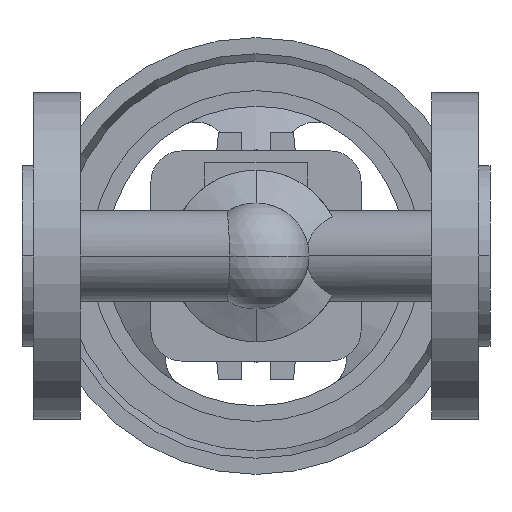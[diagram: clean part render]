
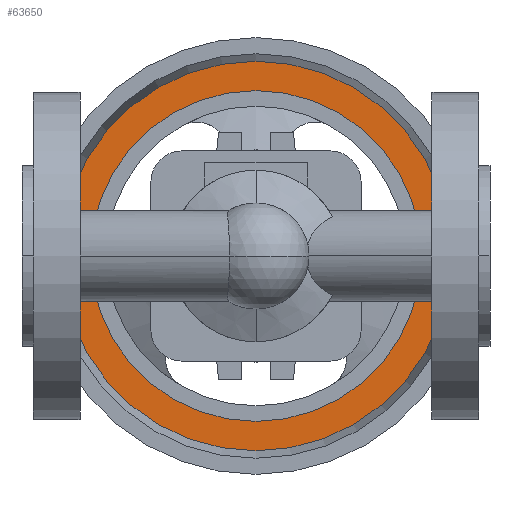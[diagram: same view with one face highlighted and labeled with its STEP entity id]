
A CAD part, front view. The second image highlights one B-rep face of the part: STEP entity #63650.
In plain terms, the highlighted planar face has unit normal (0, -1, 0).
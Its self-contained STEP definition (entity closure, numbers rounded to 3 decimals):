
#63100=CARTESIAN_POINT('',(12.588,234.7,0.));
#63110=VERTEX_POINT('',#63100);
#63140=CARTESIAN_POINT('',(75.,234.7,0.));
#63150=DIRECTION('',(0.,1.,0.));
#63160=DIRECTION('',(-1.,0.,0.));
#63170=AXIS2_PLACEMENT_3D('',#63140,#63150,#63160);
#63180=CIRCLE('',#63170,62.412);
#63190=CARTESIAN_POINT('',(137.412,234.7,0.))
;
#63200=VERTEX_POINT('',#63190);
#63210=EDGE_CURVE('',#63200,#63110,#63180,.T.);
#63400=CARTESIAN_POINT('',(17.294,234.7,0.))
;
#63410=DIRECTION('',(0.,-1.,0.));
#63420=DIRECTION('',(1.,0.,0.));
#63430=AXIS2_PLACEMENT_3D('',#63400,#63410,#63420);
#63440=PLANE('',#63430);
#63450=ORIENTED_EDGE('',*,*,#63210,.F.);
#63460=EDGE_CURVE('',#63110,#63200,#63180,.T.);
#63470=ORIENTED_EDGE('',*,*,#63460,.F.);
#63480=EDGE_LOOP('',(#63470,#63450));
#63490=FACE_OUTER_BOUND('',#63480,.T.);
#63500=CARTESIAN_POINT('',(75.,234.7,0.));
#63510=DIRECTION('',(0.,1.,0.));
#63520=DIRECTION('',(-1.,0.,0.));
#63530=AXIS2_PLACEMENT_3D('',#63500,#63510,#63520);
#63540=CIRCLE('',#63530,53.);
#63550=CARTESIAN_POINT('',(22.,234.7,0.));
#63560=VERTEX_POINT('',#63550);
#63570=CARTESIAN_POINT('',(128.,234.7,0.));
#63580=VERTEX_POINT('',#63570);
#63590=EDGE_CURVE('',#63560,#63580,#63540,.T.);
#63600=ORIENTED_EDGE('',*,*,#63590,.T.);
#63610=EDGE_CURVE('',#63580,#63560,#63540,.T.);
#63620=ORIENTED_EDGE('',*,*,#63610,.T.);
#63630=EDGE_LOOP('',(#63620,#63600));
#63640=FACE_BOUND('',#63630,.T.);
#63650=ADVANCED_FACE('',(#63490,#63640),#63440,.T.);
